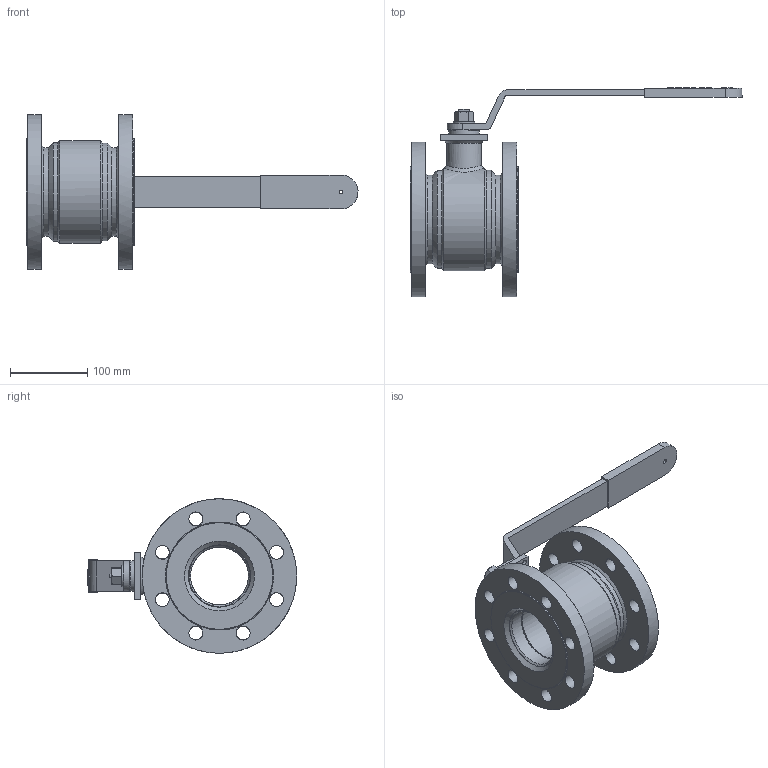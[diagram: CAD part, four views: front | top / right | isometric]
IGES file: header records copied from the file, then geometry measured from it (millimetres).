
Global section: file name: 80.21k.000.B1-10-16.00; native system: Autodesk Inventor 2015; preprocessor: unknown; author: pdrozdzowski; date: 20171031.082011; units: centimetre
Bounding box: 429.96 x 271.2 x 200 mm (x, y, z)
Volume: 1878061.5 mm3; surface area: 367614.7 mm2
Topology: 2 solids, 17 shells, 618 faces, 1646 edges, 1099 vertices
Faces by surface type: bspline 618
